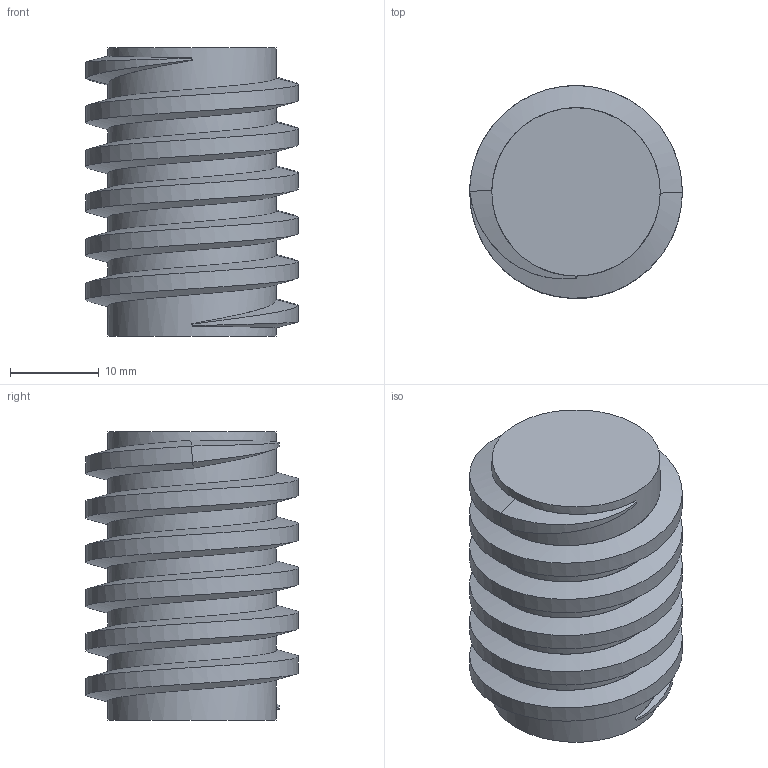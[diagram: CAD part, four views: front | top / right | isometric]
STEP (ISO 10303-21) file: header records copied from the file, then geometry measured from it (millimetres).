
FILE_DESCRIPTION(('Mechanical CAD reference from nasji.com'),'2;1');
FILE_NAME('NASJI.step','',(''),(''),'','NASJI distribution','');
FILE_SCHEMA(('AUTOMOTIVE_DESIGN { 1 0 10303 214 1 1 1 1 }'));
Length unit declared in the file: millimetre
Products named in the file (1): Open CASCADE STEP translator 7.8 204
Bounding box: 24 x 23.98 x 32.5 mm (x, y, z)
Volume: 11593.1 mm3; surface area: 4227.7 mm2
Topology: 1 solids, 1 shells, 70 faces, 176 edges, 108 vertices
Faces by surface type: bspline 60, cylinder 6, plane 4
Full cylindrical faces by diameter (mm): 19 x6
Entity records: 10433 total; most frequent: CARTESIAN_POINT 7810, ORIENTED_EDGE 352, PCURVE 352, DEFINITIONAL_REPRESENTATION 352, B_SPLINE_CURVE_WITH_KNOTS 296, DIRECTION 206, EDGE_CURVE 176, SURFACE_CURVE 174
